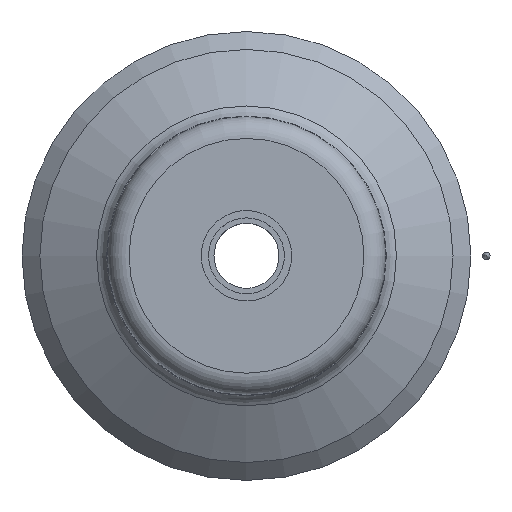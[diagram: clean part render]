
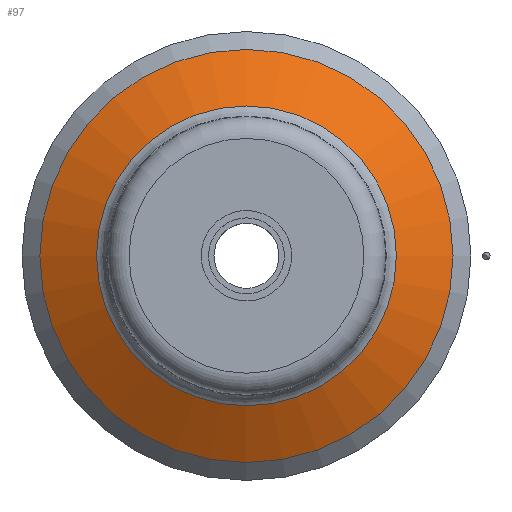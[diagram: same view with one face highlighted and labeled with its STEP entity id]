
A CAD part, top view. The second image highlights one B-rep face of the part: STEP entity #97.
In plain terms, the highlighted conical face has half-angle 60 degrees and reference radius 24.668 mm.
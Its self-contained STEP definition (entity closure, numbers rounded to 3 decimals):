
#97=ADVANCED_FACE('',(#214,#215),#216,.T.);
#214=FACE_BOUND('',#332,.T.);
#215=FACE_OUTER_BOUND('',#333,.T.);
#216=CONICAL_SURFACE('',#334,24.668,1.047);
#332=EDGE_LOOP('',(#484));
#333=EDGE_LOOP('',(#485));
#334=AXIS2_PLACEMENT_3D('',#486,#487,#488);
#484=ORIENTED_EDGE('',*,*,#554,.T.);
#485=ORIENTED_EDGE('',*,*,#523,.F.);
#486=CARTESIAN_POINT('',(0.0,0.,5.798));
#487=DIRECTION('',(0.0,0.,-1.0));
#488=DIRECTION('',(1.0,0.0,0.0));
#523=EDGE_CURVE('',#583,#583,#584,.T.);
#554=EDGE_CURVE('',#630,#630,#631,.T.);
#583=VERTEX_POINT('',#696);
#584=CIRCLE('',#697,28.585);
#630=VERTEX_POINT('',#776);
#631=CIRCLE('',#777,20.75);
#696=CARTESIAN_POINT('',(28.585,0.,3.536));
#697=AXIS2_PLACEMENT_3D('',#806,#807,#808);
#776=CARTESIAN_POINT('',(0.0,20.75,8.06));
#777=AXIS2_PLACEMENT_3D('',#851,#852,#853);
#806=CARTESIAN_POINT('',(0.0,0.,3.536));
#807=DIRECTION('',(0.0,0.,-1.0));
#808=DIRECTION('',(1.0,0.0,0.0));
#851=CARTESIAN_POINT('',(0.0,0.,8.06));
#852=DIRECTION('',(0.0,0.,-1.0));
#853=DIRECTION('',(0.0,1.0,0.));
